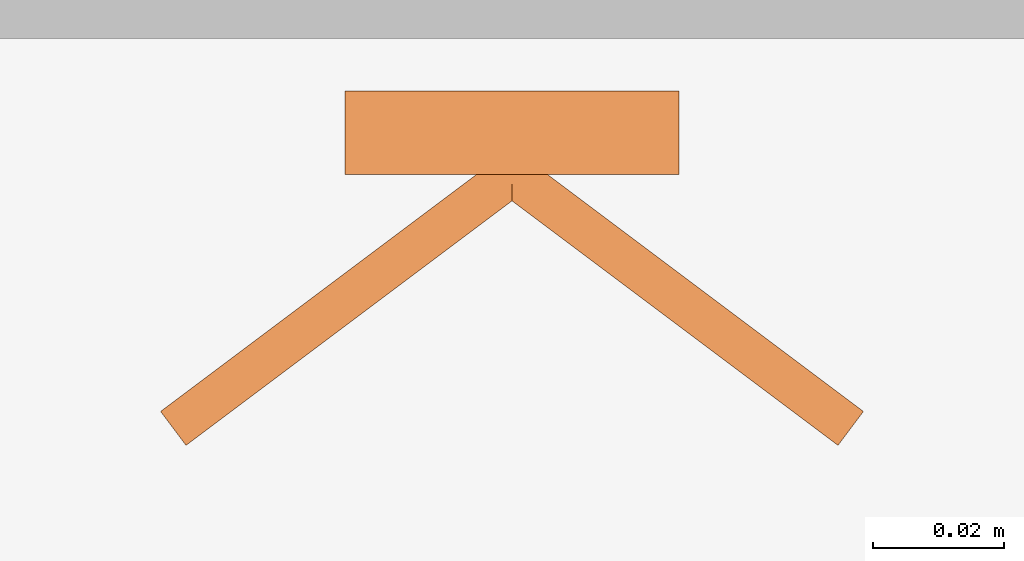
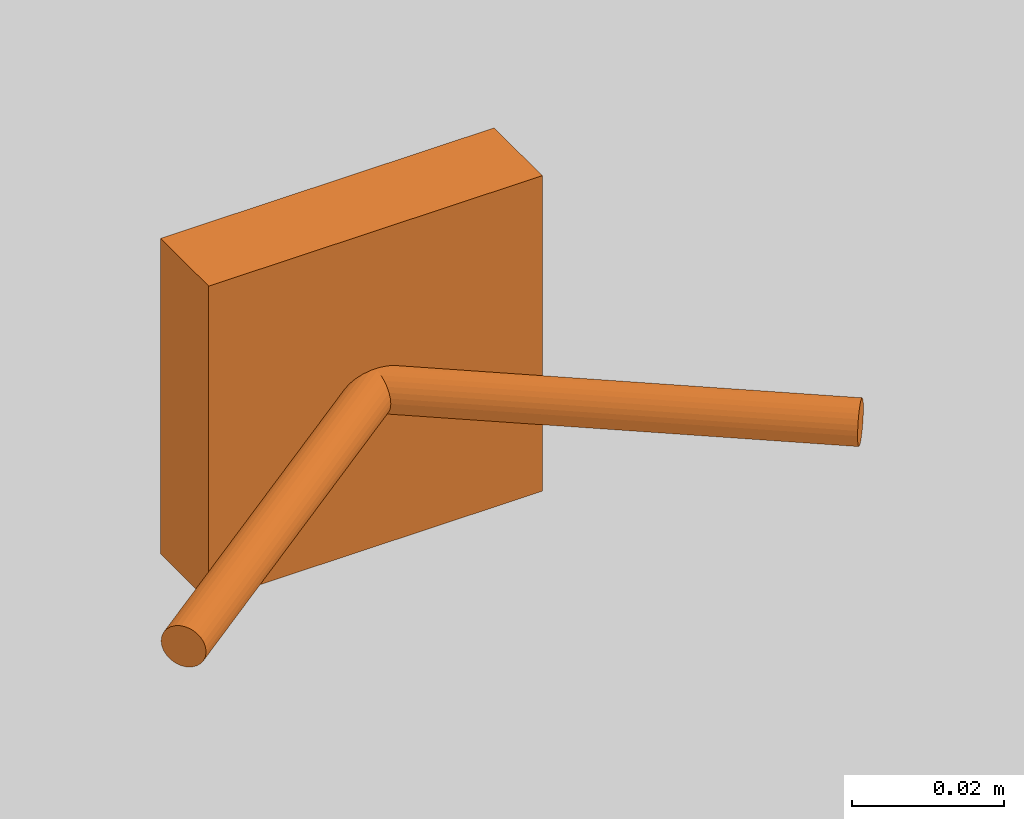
# One storey, part 86 of 142: 1 proxy.
"""IFC2X3 building model written with IfcOpenShell, lengths in feet."""

from ifc_helpers import new_model, entity, si_unit, converted_unit, derived_unit, direction, frame, frame_2d, origin, origin_2d_with_axis, place, context, subcontext, project, spatial, rectangle, circle, extrude, source, transform, mapped, type_object, type_shapes, element, save


model = new_model("IFC2X3")

# Units and contexts
model_context = context("Model", 3, precision=0.0001, world=origin(), true_north=direction((6.12303176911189e-17, 1.0)))
body_context = subcontext(model_context, "Body", "Model", "MODEL_VIEW")
ifc_project = project(units=[converted_unit("LENGTHUNIT", "FOOT", entity("IfcRatioMeasure", 0.3048), si_unit("LENGTHUNIT", "METRE"), dimensions=[1, 0, 0, 0, 0, 0, 0]), converted_unit("AREAUNIT", "SQUARE FOOT", entity("IfcRatioMeasure", 0.09290304), si_unit("AREAUNIT", "SQUARE_METRE"), dimensions=[2, 0, 0, 0, 0, 0, 0]), converted_unit("VOLUMEUNIT", "CUBIC FOOT", entity("IfcRatioMeasure", 0.028316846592), si_unit("VOLUMEUNIT", "CUBIC_METRE"), dimensions=[3, 0, 0, 0, 0, 0, 0]), converted_unit("PLANEANGLEUNIT", "DEGREE", entity("IfcRatioMeasure", 0.0174532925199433), si_unit("PLANEANGLEUNIT", "RADIAN"), dimensions=[0, 0, 0, 0, 0, 0, 0]), si_unit("MASSUNIT", "GRAM", prefix="KILO"), derived_unit("MASSDENSITYUNIT", [(si_unit("MASSUNIT", "GRAM", prefix="KILO"), 1), (si_unit("LENGTHUNIT", "METRE"), -3)]), si_unit("TIMEUNIT", "SECOND"), si_unit("FREQUENCYUNIT", "HERTZ"), si_unit("THERMODYNAMICTEMPERATUREUNIT", "DEGREE_CELSIUS"), derived_unit("THERMALTRANSMITTANCEUNIT", [(si_unit("MASSUNIT", "GRAM", prefix="KILO"), 1), (si_unit("THERMODYNAMICTEMPERATUREUNIT", "KELVIN"), -1), (si_unit("TIMEUNIT", "SECOND"), -3)]), derived_unit("VOLUMETRICFLOWRATEUNIT", [(si_unit("LENGTHUNIT", "METRE"), 3), (si_unit("TIMEUNIT", "SECOND"), -1)]), si_unit("ELECTRICCURRENTUNIT", "AMPERE"), si_unit("ELECTRICVOLTAGEUNIT", "VOLT"), si_unit("POWERUNIT", "WATT"), si_unit("FORCEUNIT", "NEWTON"), si_unit("ILLUMINANCEUNIT", "LUX"), si_unit("LUMINOUSFLUXUNIT", "LUMEN"), si_unit("LUMINOUSINTENSITYUNIT", "CANDELA"), derived_unit("USERDEFINED", [(si_unit("MASSUNIT", "GRAM", prefix="KILO"), -1), (si_unit("LENGTHUNIT", "METRE"), -2), (si_unit("TIMEUNIT", "SECOND"), 3), (si_unit("LUMINOUSFLUXUNIT", "LUMEN"), 1)]), derived_unit("LINEARVELOCITYUNIT", [(si_unit("LENGTHUNIT", "METRE"), 1), (si_unit("TIMEUNIT", "SECOND"), -1)]), si_unit("PRESSUREUNIT", "PASCAL"), derived_unit("USERDEFINED", [(si_unit("LENGTHUNIT", "METRE"), -2), (si_unit("MASSUNIT", "GRAM", prefix="KILO"), 1), (si_unit("TIMEUNIT", "SECOND"), -2)])], contexts=[model_context])

# Site, building, storey, space
site_placement = place(None, origin())
site = spatial("IfcSite", under=ifc_project, at=site_placement, Name="Default", CompositionType="ELEMENT")
building_placement = place(site_placement, origin())
building = spatial("IfcBuilding", under=site, at=building_placement, Name="OUTPATIENT / PACT CLINIC (Ch. 265)", CompositionType="ELEMENT")
storey_placement = place(building_placement, origin())
storey = spatial("IfcBuildingStorey", under=building, at=storey_placement, Name="LEVEL 1", CompositionType="ELEMENT", Elevation=0.0)
space_placement = place(storey_placement, origin())
space = spatial("IfcSpace", under=storey, at=space_placement, Name="EXW01", CompositionType="ELEMENT", InteriorOrExteriorSpace="INTERNAL")

# Proxy
building_element_proxy_type = type_object("IfcBuildingElementProxyType", Name="A5145 - Hook, Garment, Double", PredefinedType="NOTDEFINED")
shared_shape = source(origin(), body_context, "Body", "SweptSolid", [
    extrude(circle(Radius=0.0105952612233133, at=frame_2d((-1.64551454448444e-31, -4.16333634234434e-17), x_axis=(1.0, 0.0))), frame((-0.169086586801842, -0.168481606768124, 0.0833333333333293), z_axis=(0.799999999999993, 0.60000000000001, 0.0), x_axis=(0.60000000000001, -0.799999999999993, 0.0)), (0.0, 0.0, 1.0), 0.211358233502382),
    extrude(circle(Radius=0.0105952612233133, at=frame_2d((5.2041704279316e-19, 2.77555756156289e-17), x_axis=(1.0, 0.0))), frame((0.0, -0.0416666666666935, 0.083333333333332), z_axis=(0.799999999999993, -0.60000000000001, 0.0), x_axis=(-0.60000000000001, -0.799999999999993, 0.0)), (0.0, 0.0, 1.0), 0.211358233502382),
    extrude(rectangle(XDim=0.0416666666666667, YDim=0.166666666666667, at=origin_2d_with_axis()), frame((0.0, -0.0208333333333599, 0.0), z_axis=(0.0, 0.0, 1.0), x_axis=(0.0, 1.0, 0.0)), (0.0, 0.0, 1.0), 0.166666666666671),
])
type_shapes(building_element_proxy_type, [shared_shape])
proxy_placement = place(space_placement, frame((437.041436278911, -942.675697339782, 5.0)))
element("IfcBuildingElementProxy", 1, at=proxy_placement, inside=space, type_object=building_element_proxy_type, Name="A5145 - Hook, Garment, Double:A5145 - Hook, Garment, Double", ObjectType="A5145 - Hook, Garment, Double", context=body_context, shape_type="MappedRepresentation", body=[
    mapped(shared_shape, transform((0.0, 0.0, 0.0), scale=1.0)),
])

save(model, "model.ifc")
